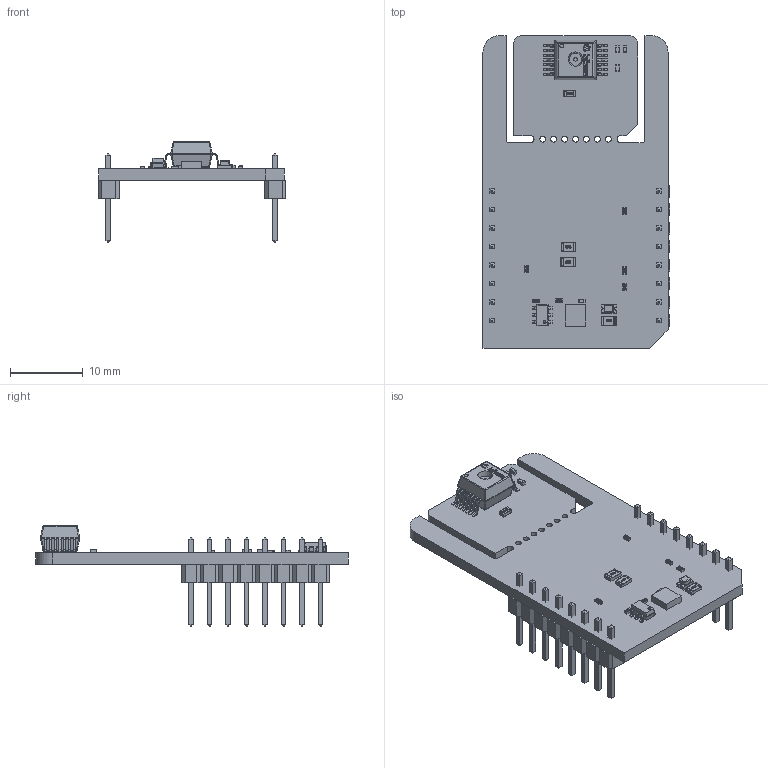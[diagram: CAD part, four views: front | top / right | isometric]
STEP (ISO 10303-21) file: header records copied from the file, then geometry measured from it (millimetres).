
FILE_DESCRIPTION(('Open CASCADE Model'),'2;1');
FILE_NAME('Open CASCADE Shape Model','2026-03-19T09:07:10',('Author'),( 'Open CASCADE'),'Open CASCADE STEP processor 6.8','Open CASCADE 6.8' ,'Unknown');
FILE_SCHEMA(('AUTOMOTIVE_DESIGN { 1 0 10303 214 1 1 1 1 }'));
Length unit declared in the file: millimetre
Products named in the file (36): PCB; Board; C4; User_Library-SMD_CAPACITOR0402; U2; User_Library-SOT23-6-2; U1; 1195633936; Extruded; R4; User_Library-R_0402; C1; LD1; led_0805_green; R1; User_Library-R_0805; R3; MBD1; Header_1x8; Free-Models; 1240637040; User_Library-PinHeaderX5-1_PinHeaderX5_Body_1; User_Library-PinHeaderX5-1_PinHeaderX5_Pins_1; C2; C3; JP2; JP3; JP4; User_Library-R_0603; R5; R6; R7; U3; PG-DSOSP-14-84_Z8B00164303_V07_3D; R2
Assembly tree (47 placements, depth 7):
  PCB
    Board
    C4
      User_Library-SMD_CAPACITOR0402
    U2
      User_Library-SOT23-6-2
    U1
      1195633936
        Extruded
    R4
      User_Library-R_0402
    C1
      User_Library-SMD_CAPACITOR0402
    LD1
      led_0805_green
    R1
      User_Library-R_0805
    R3
      User_Library-R_0402
    MBD1
      Header_1x8  x2
        PCB
          Free-Models
            1240637040  x2
              User_Library-PinHeaderX5-1_PinHeaderX5_Body_1
              User_Library-PinHeaderX5-1_PinHeaderX5_Pins_1
    C2
      User_Library-SMD_CAPACITOR0402
    C3
      User_Library-SMD_CAPACITOR0402
    JP2
      User_Library-R_0805
    JP3
      User_Library-R_0805
    JP4
      User_Library-R_0603
    R5
      User_Library-R_0402
    R6
      User_Library-R_0402
    R7
      User_Library-R_0402
    U3
      PG-DSOSP-14-84_Z8B00164303_V07_3D
    R2
      User_Library-R_0402
Bounding box: 25.78 x 42.93 x 13.82 mm (x, y, z)
Volume: 2243.1 mm3; surface area: 4209.8 mm2
Topology: 87 solids, 87 shells, 2348 faces, 5916 edges, 3794 vertices
Faces by surface type: plane 1646, bspline 373, cylinder 282, sphere 46, cone 1
Full cylindrical faces by diameter (mm): 0.134 x1, 0.276 x1, 0.5 x2, 0.55 x2, 0.8 x7
Entity records: 48298 total; most frequent: CARTESIAN_POINT 14621, ORIENTED_EDGE 6300, DIRECTION 5596, EDGE_CURVE 3150, LINE 2318, VECTOR 2318, VERTEX_POINT 2038, AXIS2_PLACEMENT_3D 1639
